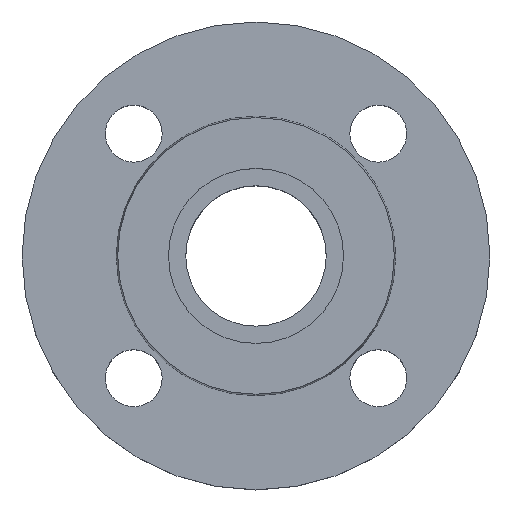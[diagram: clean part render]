
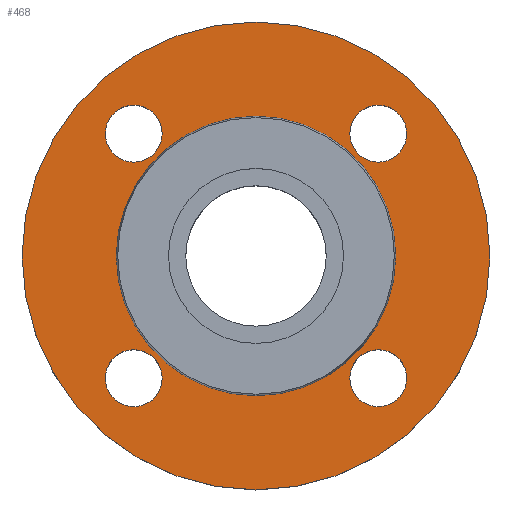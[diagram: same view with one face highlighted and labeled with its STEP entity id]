
A CAD part, top view. The second image highlights one B-rep face of the part: STEP entity #468.
In plain terms, the highlighted planar face has unit normal (0, 0, 1).
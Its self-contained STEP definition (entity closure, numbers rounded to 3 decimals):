
#28 = AXIS2_PLACEMENT_3D ( 'NONE', #242, #428, #253 ) ;
#29 = AXIS2_PLACEMENT_3D ( 'NONE', #720, #721, #722 ) ;
#36 = CIRCLE ( 'NONE', #443, 57.5 ) ;
#41 = CARTESIAN_POINT ( 'NONE',  ( -37.052, 30.052, -2. ) ) ;
#42 = CARTESIAN_POINT ( 'NONE',  ( 37.052, -30.052, -2. ) ) ;
#44 = EDGE_CURVE ( 'NONE', #604, #708, #429, .T. ) ;
#50 = CARTESIAN_POINT ( 'NONE',  ( 23.052, -30.052, -2. ) ) ;
#51 = CIRCLE ( 'NONE', #58, 7. ) ;
#54 = CARTESIAN_POINT ( 'NONE',  ( -34.353, 0., -2. ) ) ;
#58 = AXIS2_PLACEMENT_3D ( 'NONE', #193, #202, #197 ) ;
#78 = CARTESIAN_POINT ( 'NONE',  ( -37.052, -30.052, -2. ) ) ;
#90 = CARTESIAN_POINT ( 'NONE',  ( -23.052, 30.052, -2. ) ) ;
#99 = CARTESIAN_POINT ( 'NONE',  ( 37.052, 30.052, -2. ) ) ;
#100 = EDGE_CURVE ( 'NONE', #513, #699, #388, .T. ) ;
#106 = CARTESIAN_POINT ( 'NONE',  ( -57.5, 0., -2. ) ) ;
#110 = CARTESIAN_POINT ( 'NONE',  ( -23.052, -30.052, -2. ) ) ;
#117 = CARTESIAN_POINT ( 'NONE',  ( 23.052, 30.052, -2. ) ) ;
#126 = EDGE_CURVE ( 'NONE', #706, #704, #459, .T. ) ;
#128 = CARTESIAN_POINT ( 'NONE',  ( 34.353, 0., -2. ) ) ;
#134 = CARTESIAN_POINT ( 'NONE',  ( 57.5, 0., -2. ) ) ;
#143 = AXIS2_PLACEMENT_3D ( 'NONE', #437, #440, #438 ) ;
#150 = CIRCLE ( 'NONE', #143, 7. ) ;
#155 = EDGE_CURVE ( 'NONE', #708, #604, #239, .T. ) ;
#167 = CIRCLE ( 'NONE', #484, 7. ) ;
#170 = AXIS2_PLACEMENT_3D ( 'NONE', #218, #293, #296 ) ;
#177 = CIRCLE ( 'NONE', #170, 7. ) ;
#180 = EDGE_CURVE ( 'NONE', #545, #506, #36, .T. ) ;
#193 = CARTESIAN_POINT ( 'NONE',  ( -30.052, -30.052, -2. ) ) ;
#197 = DIRECTION ( 'NONE',  ( 1., 0., 0. ) ) ;
#201 = CIRCLE ( 'NONE', #207, 34.353 ) ;
#202 = DIRECTION ( 'NONE',  ( 0., 0., -1. ) ) ;
#207 = AXIS2_PLACEMENT_3D ( 'NONE', #360, #363, #364 ) ;
#218 = CARTESIAN_POINT ( 'NONE',  ( 30.052, 30.052, -2. ) ) ;
#221 = FACE_OUTER_BOUND ( 'NONE', #707, .T. ) ;
#232 = CIRCLE ( 'NONE', #274, 57.5 ) ;
#234 = AXIS2_PLACEMENT_3D ( 'NONE', #751, #752, #753 ) ;
#239 = CIRCLE ( 'NONE', #446, 7. ) ;
#242 = CARTESIAN_POINT ( 'NONE',  ( 34.353, 0., -2. ) ) ;
#249 = EDGE_CURVE ( 'NONE', #506, #545, #232, .T. ) ;
#253 = DIRECTION ( 'NONE',  ( 1., 0., 0. ) ) ;
#257 = EDGE_CURVE ( 'NONE', #583, #531, #177, .T. ) ;
#261 = FACE_BOUND ( 'NONE', #662, .T. ) ;
#266 = CIRCLE ( 'NONE', #271, 7. ) ;
#270 = AXIS2_PLACEMENT_3D ( 'NONE', #732, #733, #734 ) ;
#271 = AXIS2_PLACEMENT_3D ( 'NONE', #344, #345, #346 ) ;
#274 = AXIS2_PLACEMENT_3D ( 'NONE', #794, #795, #796 ) ;
#284 = CARTESIAN_POINT ( 'NONE',  ( -30.052, -30.052, -2. ) ) ;
#293 = DIRECTION ( 'NONE',  ( 0., 0., -1. ) ) ;
#296 = DIRECTION ( 'NONE',  ( 1., 0., 0. ) ) ;
#300 = FACE_BOUND ( 'NONE', #536, .T. ) ;
#302 = EDGE_CURVE ( 'NONE', #704, #706, #266, .T. ) ;
#315 = FACE_BOUND ( 'NONE', #541, .T. ) ;
#320 = FACE_BOUND ( 'NONE', #539, .T. ) ;
#321 = EDGE_CURVE ( 'NONE', #699, #513, #201, .T. ) ;
#344 = CARTESIAN_POINT ( 'NONE',  ( 30.052, -30.052, -2. ) ) ;
#345 = DIRECTION ( 'NONE',  ( 0., 0., -1. ) ) ;
#346 = DIRECTION ( 'NONE',  ( 1., 0., 0. ) ) ;
#360 = CARTESIAN_POINT ( 'NONE',  ( 0., 0., -2. ) ) ;
#362 = FACE_BOUND ( 'NONE', #516, .T. ) ;
#363 = DIRECTION ( 'NONE',  ( 0., 0., -1. ) ) ;
#364 = DIRECTION ( 'NONE',  ( -1., 0., 0. ) ) ;
#388 = CIRCLE ( 'NONE', #270, 34.353 ) ;
#410 = EDGE_CURVE ( 'NONE', #531, #583, #150, .T. ) ;
#423 = DIRECTION ( 'NONE',  ( 0., 0., -1. ) ) ;
#428 = DIRECTION ( 'NONE',  ( 0., 0., 1. ) ) ;
#429 = CIRCLE ( 'NONE', #29, 7. ) ;
#430 = DIRECTION ( 'NONE',  ( 1., 0., 0. ) ) ;
#437 = CARTESIAN_POINT ( 'NONE',  ( 30.052, 30.052, -2. ) ) ;
#438 = DIRECTION ( 'NONE',  ( 1., 0., 0. ) ) ;
#440 = DIRECTION ( 'NONE',  ( 0., 0., -1. ) ) ;
#443 = AXIS2_PLACEMENT_3D ( 'NONE', #772, #773, #774 ) ;
#446 = AXIS2_PLACEMENT_3D ( 'NONE', #769, #770, #771 ) ;
#459 = CIRCLE ( 'NONE', #234, 7. ) ;
#468 = ADVANCED_FACE ( 'NONE', ( #315, #300, #320, #261, #362, #221 ), #471, .T. ) ;
#471 = PLANE ( 'NONE',  #28 ) ;
#484 = AXIS2_PLACEMENT_3D ( 'NONE', #284, #423, #430 ) ;
#487 = EDGE_CURVE ( 'NONE', #540, #626, #167, .T. ) ;
#489 = EDGE_CURVE ( 'NONE', #626, #540, #51, .T. ) ;
#506 = VERTEX_POINT ( 'NONE', #134 ) ;
#513 = VERTEX_POINT ( 'NONE', #128 ) ;
#516 = EDGE_LOOP ( 'NONE', ( #622, #623 ) ) ;
#531 = VERTEX_POINT ( 'NONE', #117 ) ;
#536 = EDGE_LOOP ( 'NONE', ( #613, #614 ) ) ;
#539 = EDGE_LOOP ( 'NONE', ( #615, #617 ) ) ;
#540 = VERTEX_POINT ( 'NONE', #110 ) ;
#541 = EDGE_LOOP ( 'NONE', ( #611, #612 ) ) ;
#545 = VERTEX_POINT ( 'NONE', #106 ) ;
#583 = VERTEX_POINT ( 'NONE', #99 ) ;
#604 = VERTEX_POINT ( 'NONE', #90 ) ;
#611 = ORIENTED_EDGE ( 'NONE', *, *, #126, .T. ) ;
#612 = ORIENTED_EDGE ( 'NONE', *, *, #302, .T. ) ;
#613 = ORIENTED_EDGE ( 'NONE', *, *, #487, .T. ) ;
#614 = ORIENTED_EDGE ( 'NONE', *, *, #489, .T. ) ;
#615 = ORIENTED_EDGE ( 'NONE', *, *, #44, .T. ) ;
#617 = ORIENTED_EDGE ( 'NONE', *, *, #155, .T. ) ;
#618 = ORIENTED_EDGE ( 'NONE', *, *, #257, .T. ) ;
#621 = ORIENTED_EDGE ( 'NONE', *, *, #410, .T. ) ;
#622 = ORIENTED_EDGE ( 'NONE', *, *, #321, .T. ) ;
#623 = ORIENTED_EDGE ( 'NONE', *, *, #100, .T. ) ;
#624 = ORIENTED_EDGE ( 'NONE', *, *, #249, .F. ) ;
#626 = VERTEX_POINT ( 'NONE', #78 ) ;
#627 = ORIENTED_EDGE ( 'NONE', *, *, #180, .F. ) ;
#662 = EDGE_LOOP ( 'NONE', ( #618, #621 ) ) ;
#699 = VERTEX_POINT ( 'NONE', #54 ) ;
#704 = VERTEX_POINT ( 'NONE', #50 ) ;
#706 = VERTEX_POINT ( 'NONE', #42 ) ;
#707 = EDGE_LOOP ( 'NONE', ( #624, #627 ) ) ;
#708 = VERTEX_POINT ( 'NONE', #41 ) ;
#720 = CARTESIAN_POINT ( 'NONE',  ( -30.052, 30.052, -2. ) ) ;
#721 = DIRECTION ( 'NONE',  ( 0., 0., -1. ) ) ;
#722 = DIRECTION ( 'NONE',  ( 1., 0., 0. ) ) ;
#732 = CARTESIAN_POINT ( 'NONE',  ( 0., 0., -2. ) ) ;
#733 = DIRECTION ( 'NONE',  ( 0., 0., -1. ) ) ;
#734 = DIRECTION ( 'NONE',  ( -1., 0., 0. ) ) ;
#751 = CARTESIAN_POINT ( 'NONE',  ( 30.052, -30.052, -2. ) ) ;
#752 = DIRECTION ( 'NONE',  ( 0., 0., -1. ) ) ;
#753 = DIRECTION ( 'NONE',  ( 1., 0., 0. ) ) ;
#769 = CARTESIAN_POINT ( 'NONE',  ( -30.052, 30.052, -2. ) ) ;
#770 = DIRECTION ( 'NONE',  ( 0., 0., -1. ) ) ;
#771 = DIRECTION ( 'NONE',  ( 1., 0., 0. ) ) ;
#772 = CARTESIAN_POINT ( 'NONE',  ( 0., 0., -2. ) ) ;
#773 = DIRECTION ( 'NONE',  ( 0., 0., -1. ) ) ;
#774 = DIRECTION ( 'NONE',  ( -1., 0., 0. ) ) ;
#794 = CARTESIAN_POINT ( 'NONE',  ( 0., 0., -2. ) ) ;
#795 = DIRECTION ( 'NONE',  ( 0., 0., -1. ) ) ;
#796 = DIRECTION ( 'NONE',  ( -1., 0., 0. ) ) ;
